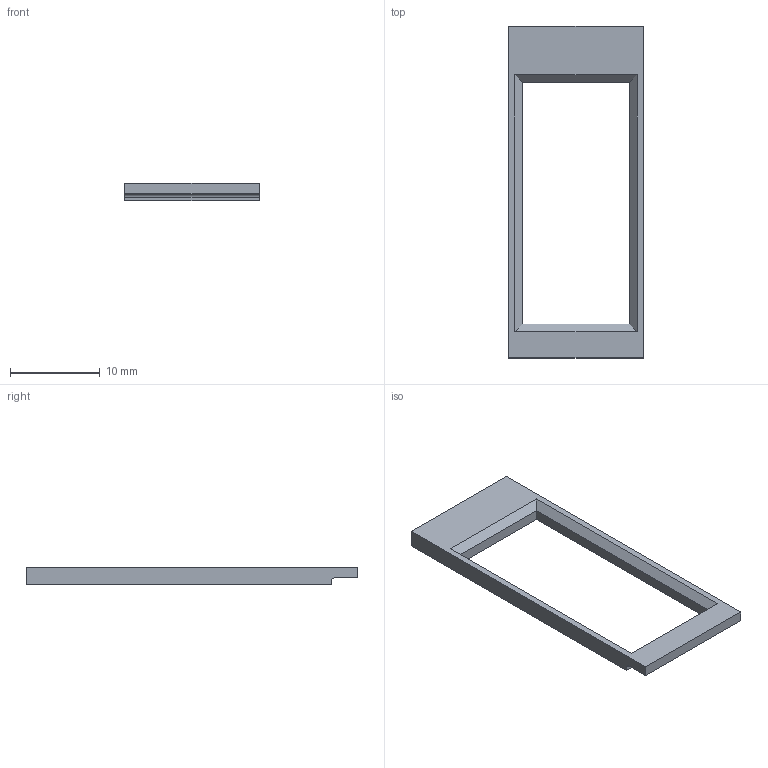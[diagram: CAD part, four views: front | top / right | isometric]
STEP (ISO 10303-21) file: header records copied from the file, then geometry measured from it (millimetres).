
FILE_DESCRIPTION(('Open CASCADE Model'),'2;1');
FILE_NAME('Open CASCADE Shape Model','2026-05-31T19:44:12',('Author'),( 'Open CASCADE'),'Open CASCADE STEP processor 7.6','Open CASCADE 7.6' ,'Unknown');
FILE_SCHEMA(('AP242_MANAGED_MODEL_BASED_3D_ENGINEERING_MIM_LF. {1 0 10303 442 1 1 4 }'));
Length unit declared in the file: millimetre
Products named in the file (1): Open CASCADE STEP translator 7.6 10
Bounding box: 15 x 37 x 2 mm (x, y, z)
Volume: 400.9 mm3; surface area: 783.2 mm2
Topology: 1 solids, 1 shells, 17 faces, 41 edges, 26 vertices
Faces by surface type: plane 16, cylinder 1
Entity records: 1035 total; most frequent: CARTESIAN_POINT 173, DIRECTION 160, LINE 119, VECTOR 119, ORIENTED_EDGE 82, PCURVE 82, DEFINITIONAL_REPRESENTATION 82, EDGE_CURVE 41
